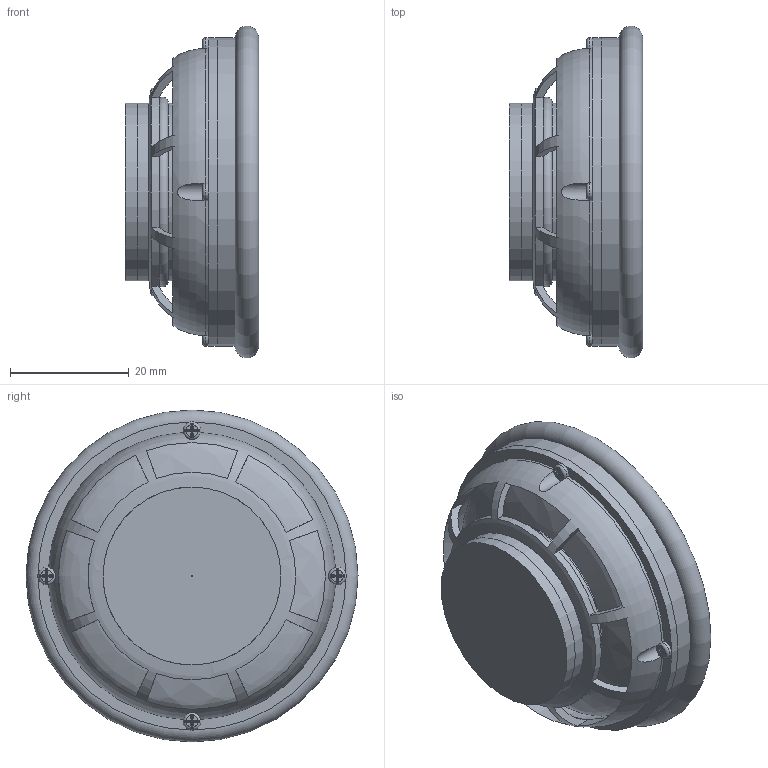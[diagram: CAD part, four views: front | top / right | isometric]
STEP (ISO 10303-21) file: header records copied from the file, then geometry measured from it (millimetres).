
FILE_DESCRIPTION(/* description */ (''),/* implementation_level */ '2;1');
FILE_NAME(/* name */ 'C:\Users\andre\Desktop\Item Writer\Draft 2\STEP Files\Speaker\Speaker.stp',/* time_stamp */ '2018-07-01T13:32:58+01:00',/* author */ ('Andrea Phee'),/* organization */ ('SQA'),/* preprocessor_version */ 'ST-DEVELOPER v16.13',/* originating_system */ 'Autodesk Inventor 2018',/* authorisation */ '');
FILE_SCHEMA (('AUTOMOTIVE_DESIGN { 1 0 10303 214 3 1 1 }'));
Length unit declared in the file: millimetre
Products named in the file (9): Speaker; Cone; Dust Cap; Spider; Coil; Basket; Magnet; Pole; Fixing Screws
Assembly tree (8 placements, depth 2):
  Speaker
    Cone
    Dust Cap
    Spider
    Coil
    Basket
    Magnet
    Pole
    Fixing Screws
Bounding box: 22.52 x 56 x 56 mm (x, y, z)
Volume: 22903.1 mm3; surface area: 18804.1 mm2
Topology: 12 solids, 12 shells, 308 faces, 800 edges, 524 vertices
Faces by surface type: plane 148, bspline 84, cylinder 57, torus 19
Full cylindrical faces by diameter (mm): 0.1 x1, 2 x12, 3 x4, 6 x3, 8 x4, 10 x2, 30 x3, 46 x2, 52 x2
Entity records: 12870 total; most frequent: CARTESIAN_POINT 5223, DIRECTION 1489, ORIENTED_EDGE 1472, EDGE_CURVE 732, AXIS2_PLACEMENT_3D 554, VERTEX_POINT 507, EDGE_LOOP 405, LINE 381
